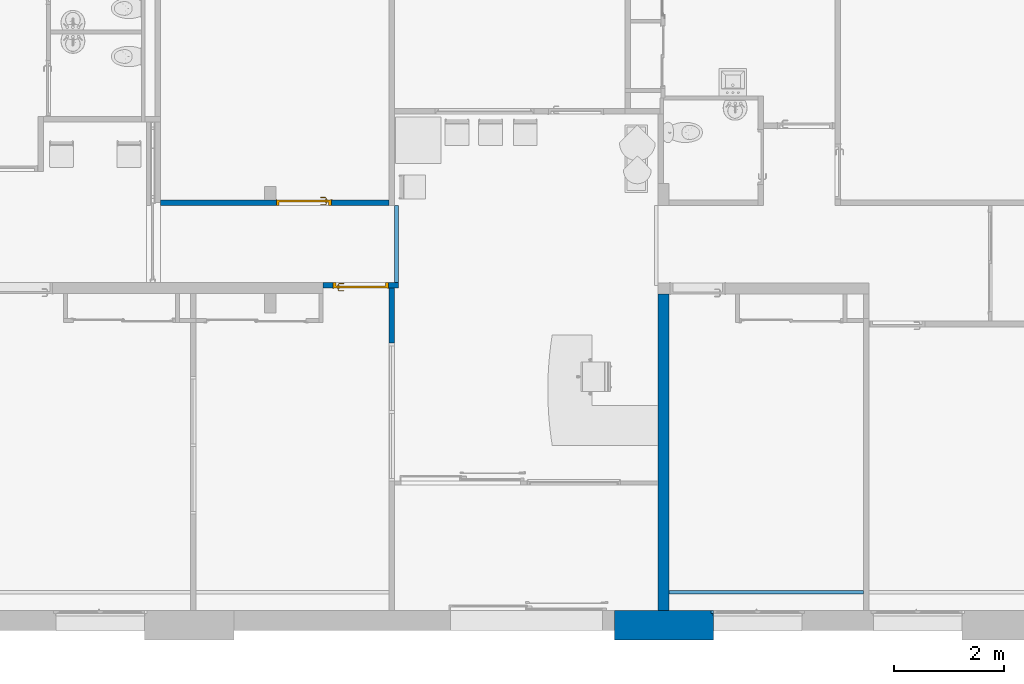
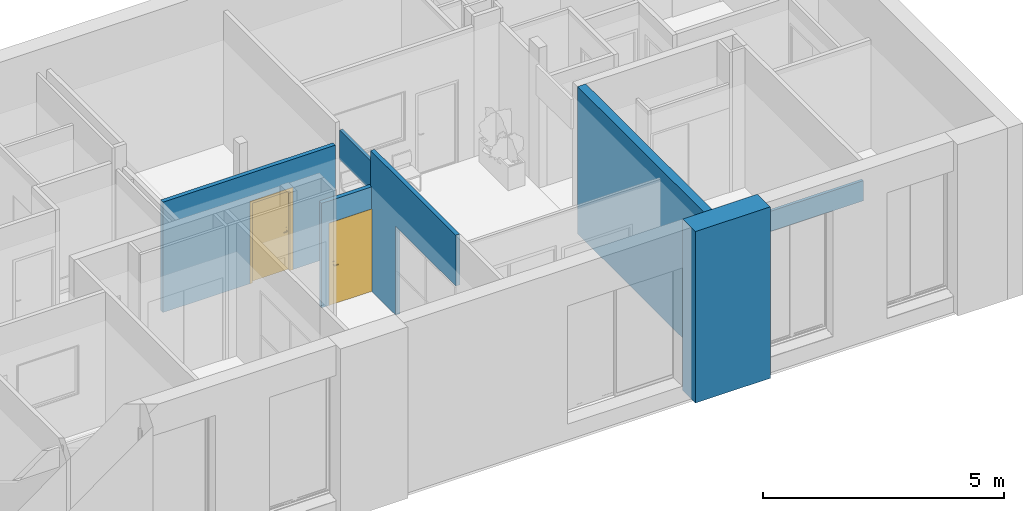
# One storey, part 12 of 32: 7 walls, 2 doors, 4 openings.
"""IFC2X3 building model written with IfcOpenShell, lengths in metres."""

from ifc_helpers import new_model, entity, si_unit, converted_unit, derived_unit, direction, frame, frame_2d, origin, place, context, subcontext, project, spatial, polyline, circle_curve, parameter, trimmed, segment, composite_curve, rectangle, outline, extrude, faceted_brep, source, transform, mapped, material, material_list, layer, layer_set, layer_usage, type_object, type_shapes, element, fill, save


model = new_model("IFC2X3")

# Units and contexts
model_context = context("Model", 3, precision=1e-05, world=origin(), true_north=direction((6.12303176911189e-17, 1.0)))
plan_context = context("Plan", 3, precision=1e-05, world=origin(), true_north=direction((6.12303176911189e-17, 1.0)))
body_context = subcontext(model_context, "Body", "Model", "MODEL_VIEW")
ifc_project = project(units=[si_unit("LENGTHUNIT", "METRE"), si_unit("AREAUNIT", "SQUARE_METRE"), si_unit("VOLUMEUNIT", "CUBIC_METRE"), converted_unit("PLANEANGLEUNIT", "DEGREE", entity("IfcRatioMeasure", 0.0174532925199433), si_unit("PLANEANGLEUNIT", "RADIAN"), dimensions=[0, 0, 0, 0, 0, 0, 0]), si_unit("MASSUNIT", "GRAM", prefix="KILO"), derived_unit("MASSDENSITYUNIT", [(si_unit("MASSUNIT", "GRAM", prefix="KILO"), 1), (si_unit("LENGTHUNIT", "METRE"), -3)]), derived_unit("MOMENTOFINERTIAUNIT", [(si_unit("LENGTHUNIT", "METRE"), 4)]), si_unit("TIMEUNIT", "SECOND"), si_unit("FREQUENCYUNIT", "HERTZ"), si_unit("THERMODYNAMICTEMPERATUREUNIT", "DEGREE_CELSIUS"), derived_unit("THERMALTRANSMITTANCEUNIT", [(si_unit("MASSUNIT", "GRAM", prefix="KILO"), 1), (si_unit("THERMODYNAMICTEMPERATUREUNIT", "KELVIN"), -1), (si_unit("TIMEUNIT", "SECOND"), -3)]), derived_unit("VOLUMETRICFLOWRATEUNIT", [(si_unit("LENGTHUNIT", "METRE"), 3), (si_unit("TIMEUNIT", "SECOND"), -1)]), si_unit("ELECTRICCURRENTUNIT", "AMPERE"), si_unit("ELECTRICVOLTAGEUNIT", "VOLT"), si_unit("POWERUNIT", "WATT"), si_unit("FORCEUNIT", "NEWTON", prefix="KILO"), si_unit("ILLUMINANCEUNIT", "LUX"), si_unit("LUMINOUSFLUXUNIT", "LUMEN"), si_unit("LUMINOUSINTENSITYUNIT", "CANDELA"), derived_unit("USERDEFINED", [(si_unit("MASSUNIT", "GRAM", prefix="KILO"), -1), (si_unit("LENGTHUNIT", "METRE"), -2), (si_unit("TIMEUNIT", "SECOND"), 3), (si_unit("LUMINOUSFLUXUNIT", "LUMEN"), 1)]), derived_unit("LINEARVELOCITYUNIT", [(si_unit("LENGTHUNIT", "METRE"), 1), (si_unit("TIMEUNIT", "SECOND"), -1)]), si_unit("PRESSUREUNIT", "PASCAL"), derived_unit("USERDEFINED", [(si_unit("LENGTHUNIT", "METRE"), -2), (si_unit("MASSUNIT", "GRAM", prefix="KILO"), 1), (si_unit("TIMEUNIT", "SECOND"), -2)]), derived_unit("LINEARFORCEUNIT", [(si_unit("MASSUNIT", "GRAM", prefix="KILO"), 1), (si_unit("LENGTHUNIT", "METRE"), 1), (si_unit("TIMEUNIT", "SECOND"), -2), (si_unit("LENGTHUNIT", "METRE"), -1)]), derived_unit("PLANARFORCEUNIT", [(si_unit("MASSUNIT", "GRAM", prefix="KILO"), 1), (si_unit("LENGTHUNIT", "METRE"), 1), (si_unit("TIMEUNIT", "SECOND"), -2), (si_unit("LENGTHUNIT", "METRE"), -2)])], contexts=[model_context, plan_context])

# Site, building, storey
site_placement = place(None, origin())
site = spatial("IfcSite", under=ifc_project, at=site_placement, Name="Default", CompositionType="ELEMENT")
building_placement = place(site_placement, origin())
building = spatial("IfcBuilding", under=site, at=building_placement, CompositionType="ELEMENT")
storey_placement = place(building_placement, origin())
storey = spatial("IfcBuildingStorey", under=building, at=storey_placement, Name="0 Mairie RDC 0.00", CompositionType="ELEMENT", Elevation=-1.94916083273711e-14)

# Wall, opening, door
ifc_material_1 = material(Name="Plâtre")
ifc_layer_1 = layer(ifc_material_1, 0.0125)
ifc_layer_2 = layer(ifc_material_1, 0.0125)
ifc_material_2 = material(Name="Maçonnerie - Isolant")
ifc_layer_3 = layer(ifc_material_2, 0.05)
ifc_layer_4 = layer(ifc_material_1, 0.0125)
ifc_layer_5 = layer(ifc_material_1, 0.0125)
ifc_layer_set_1 = layer_set([ifc_layer_1, ifc_layer_2, ifc_layer_3, ifc_layer_4, ifc_layer_5], Name="Mur de base:A cloison placostil 98 sèche")
ifc_layer_usage_1 = layer_usage(ifc_layer_set_1, "AXIS2", "POSITIVE", -0.05)
wall_type_1 = type_object("IfcWallType", Name="Murs : Mur de base : A cloison placostil 98 sèche", PredefinedType="STANDARD", material=ifc_layer_set_1)
wall_1_placement = place(storey_placement, frame((-14.0467760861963, -6.58253403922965, 0.0)))
wall_1 = element("IfcWallStandardCase", 1, at=wall_1_placement, inside=storey, type_object=wall_type_1, material=ifc_layer_usage_1, Name="Murs : Mur de base : A cloison placostil 98 sèche", ObjectType="Mur de base:A cloison placostil 98 sèche", context=body_context, shape_type="SweptSolid", body=[
    extrude(rectangle(XDim=4.13832893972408, YDim=0.1, at=frame_2d((2.16916446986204, -5.41233724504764e-16), x_axis=(1.0, 0.0))), origin(), (0.0, 0.0, 1.0), 2.8),
])
opening_1_placement = place(wall_1_placement, frame((2.19822991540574, -0.0500000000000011, 0.0)))
opening_1 = element("IfcOpeningElement", 2, at=opening_1_placement, cuts=wall_1, Name="Portes : Int. Simple : PP (0.89m x 2.04m):1", ObjectType="Opening", context=body_context, shape_type="SweptSolid", body=[
    extrude(rectangle(XDim=2.075, YDim=0.999999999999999, at=frame_2d((1.0375, 0.5), x_axis=(1.0, 0.0))), frame((0.0, 0.0, 0.0), z_axis=(0.0, 1.0, 0.0), x_axis=(0.0, 0.0, 1.0)), (0.0, 0.0, 1.0), 0.1),
])
ifc_material_3 = material(Name="Finition Peinture - Blanc satiné")
ifc_material_4 = material(Name="Bois - Cadre de porte")
ifc_material_list_1 = material_list([ifc_material_3, ifc_material_4])
ifc_material_5 = material(Name="Bois - Panneau de porte")
ifc_material_list_2 = material_list([ifc_material_5, ifc_material_4, ifc_material_3])
door_style = type_object("IfcDoorStyle", Name="Portes : Int. Simple : PP (0.89m x 2.04m)", ConstructionType="NOTDEFINED", OperationType="NOTDEFINED", ParameterTakesPrecedence=False, Sizeable=False, material=ifc_material_list_2)
shared_shape = source(origin(), body_context, "Body", "SolidModel", [
    extrude(outline(composite_curve([segment(polyline([(-0.104999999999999, -0.0199999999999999), (0.104999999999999, -0.0199999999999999)]), True, "CONTINUOUS"), segment(trimmed(circle_curve(frame_2d((0.0703589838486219, 0.0), x_axis=(0.0, 1.0)), 0.0399999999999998), [parameter(240.000000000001)], [parameter(300.0)], True, "PARAMETER"), True, "CONTINUOUS"), segment(polyline([(0.104999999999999, 0.0199999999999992), (-0.105, 0.020000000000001)]), True, "CONTINUOUS"), segment(trimmed(circle_curve(frame_2d((-0.0703589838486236, 0.0), x_axis=(0.0, 1.0)), 0.0399999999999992), [parameter(59.9999999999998)], [parameter(120.0)], True, "PARAMETER"), True, "CONTINUOUS")], self_intersect=False)), frame((0.0949999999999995, -0.00500000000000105, 0.975000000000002), z_axis=(0.0, 1.0, 0.0), x_axis=(0.0, 0.0, 1.0)), (0.0, 0.0, 1.0), 0.005),
    extrude(outline(composite_curve([segment(polyline([(-0.105, -0.0200000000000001), (0.105, -0.0200000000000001)]), True, "CONTINUOUS"), segment(trimmed(circle_curve(frame_2d((0.0703589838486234, 0.0), x_axis=(0.0, -1.0)), 0.0399999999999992), [parameter(59.9999999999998)], [parameter(120.0)], True, "PARAMETER"), True, "CONTINUOUS"), segment(polyline([(0.104999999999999, 0.0200000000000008), (-0.105, 0.0199999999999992)]), True, "CONTINUOUS"), segment(trimmed(circle_curve(frame_2d((-0.0703589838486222, 0.0), x_axis=(0.0, -1.0)), 0.0399999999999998), [parameter(240.0)], [parameter(300.0)], True, "PARAMETER"), True, "CONTINUOUS")], self_intersect=False)), frame((0.0949999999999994, 0.0399999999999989, 0.975000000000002), z_axis=(0.0, 1.0, 0.0), x_axis=(0.0, 0.0, -1.0)), (0.0, 0.0, 1.0), 0.00500000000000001),
    extrude(rectangle(XDim=0.04, YDim=0.93, at=frame_2d((3.46944695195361e-18, 0.0), x_axis=(1.0, 0.0))), frame((0.5, 0.02, 0.0), z_axis=(0.0, 0.0, 1.0), x_axis=(0.0, -1.0, 0.0)), (0.0, 0.0, 1.0), 2.04),
    extrude(outline(polyline([(-1.03750000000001, -0.514999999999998), (1.0525, -0.514999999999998), (1.0525, 0.514999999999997), (-1.0375, 0.514999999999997), (-1.03750000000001, 0.484999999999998), (1.02250000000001, 0.484999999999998), (1.02250000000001, -0.484999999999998), (-1.03750000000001, -0.484999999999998), (-1.03750000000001, -0.514999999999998)])), frame((0.499999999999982, 0.100000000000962, 1.03750000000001), z_axis=(0.0, 1.0, 0.0), x_axis=(0.0, 0.0, 1.0)), (0.0, 0.0, 1.0), 0.00500000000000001),
    extrude(outline(polyline([(-1.03750000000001, -0.514999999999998), (1.0525, -0.514999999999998), (1.0525, 0.514999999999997), (-1.0375, 0.514999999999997), (-1.03750000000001, 0.484999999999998), (1.02250000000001, 0.484999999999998), (1.02250000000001, -0.484999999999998), (-1.03750000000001, -0.484999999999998), (-1.03750000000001, -0.514999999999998)])), frame((0.499999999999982, -0.00500000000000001, 1.03750000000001), z_axis=(0.0, 1.0, 0.0), x_axis=(0.0, 0.0, 1.0)), (0.0, 0.0, 1.0), 0.005),
    faceted_brep([(0.0929747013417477, -0.00500000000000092, 1.00778044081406), (0.097025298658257, -0.0050000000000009, 1.00778044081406), (0.101000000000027, -0.00500000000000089, 1.00699999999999), (0.101000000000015, -0.00500000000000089, 0.993000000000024), (0.0970252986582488, -0.0050000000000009, 0.992219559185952), (0.0929747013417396, -0.00500000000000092, 0.99221955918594), (0.0889999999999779, -0.00500000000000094, 0.992999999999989), (0.0889999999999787, -0.00500000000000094, 1.007), (0.0889999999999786, -0.0326509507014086, 1.007), (0.0929747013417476, -0.0310045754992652, 1.00778044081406), (0.109023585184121, -0.0470534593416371, 1.00778044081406), (0.110701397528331, -0.0430028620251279, 1.00778044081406), (0.0970252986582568, -0.0293267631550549, 1.00778044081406), (0.101000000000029, -0.0276803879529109, 1.007), (0.101000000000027, -0.0276803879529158, 0.993000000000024), (0.0970252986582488, -0.0293267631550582, 0.992219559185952), (0.110701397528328, -0.0430028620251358, 0.992219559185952), (0.109023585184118, -0.0470534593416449, 0.99221955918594), (0.0929747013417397, -0.0310045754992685, 0.99221955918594), (0.0889999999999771, -0.0326509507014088, 0.992999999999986), (0.107377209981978, -0.0510281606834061, 1.007), (0.112347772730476, -0.0390281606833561, 1.007), (0.112347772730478, -0.0390281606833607, 0.993000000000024), (0.107377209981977, -0.0510281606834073, 0.992999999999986), (0.195018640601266, -0.051028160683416, 0.992999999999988), (0.195018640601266, -0.0470534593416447, 0.99221955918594), (0.195018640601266, -0.0430028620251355, 0.992219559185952), (0.195018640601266, -0.0390281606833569, 0.993000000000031), (0.195018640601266, -0.0390281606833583, 1.007), (0.195018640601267, -0.0430028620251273, 1.00778044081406), (0.195018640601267, -0.0470534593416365, 1.00778044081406), (0.195018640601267, -0.0510281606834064, 1.00699999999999), (0.147307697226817, -0.0510281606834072, 1.007), (0.152860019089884, -0.045028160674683, 1.0078786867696), (0.15368320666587, -0.039028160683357, 1.007), (0.153683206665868, -0.0390281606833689, 0.993000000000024), (0.152860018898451, -0.0450281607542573, 0.992121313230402), (0.147307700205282, -0.0510281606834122, 0.992999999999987)], [[[0, 1, 2, 3, 4, 5, 6, 7]], [[8, 9, 0, 7]], [[9, 10, 11, 12, 1, 0]], [[12, 13, 2, 1]], [[3, 2, 13, 14]], [[14, 15, 4, 3]], [[15, 16, 17, 18, 5, 4]], [[18, 19, 6, 5]], [[7, 6, 19, 8]], [[20, 10, 9, 8]], [[11, 21, 13, 12]], [[14, 13, 21, 22]], [[22, 16, 15, 14]], [[17, 23, 19, 18]], [[8, 19, 23, 20]], [[24, 25, 26, 27, 28, 29, 30, 31]], [[32, 30, 33]], [[31, 30, 32]], [[10, 20, 32]], [[33, 34, 11]], [[21, 11, 34]], [[34, 29, 28]], [[30, 29, 33]], [[29, 34, 33]], [[10, 32, 33]], [[10, 33, 11]], [[22, 21, 34, 28, 27, 35]], [[35, 26, 36]], [[37, 36, 25]], [[22, 35, 16]], [[35, 27, 26]], [[24, 37, 25]], [[23, 17, 37]], [[37, 17, 36]], [[17, 16, 36]], [[16, 35, 36]], [[25, 36, 26]], [[20, 23, 37, 24, 31, 32]]]),
    faceted_brep([(0.092974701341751, 0.0449999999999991, 1.00778044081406), (0.0889999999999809, 0.044999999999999, 1.007), (0.0889999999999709, 0.044999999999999, 0.992999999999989), (0.0929747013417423, 0.0449999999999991, 0.99221955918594), (0.0970252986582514, 0.0449999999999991, 0.992219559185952), (0.10100000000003, 0.0449999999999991, 0.993000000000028), (0.101000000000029, 0.0449999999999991, 1.007), (0.0970252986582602, 0.0449999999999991, 1.00778044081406), (0.10100000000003, 0.067485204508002, 0.993000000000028), (0.10100000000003, 0.0674852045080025, 1.007), (0.0970252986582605, 0.0691315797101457, 1.00778044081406), (0.110838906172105, 0.0829451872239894, 1.00778044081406), (0.109161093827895, 0.0869957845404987, 1.00778044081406), (0.0929747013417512, 0.070809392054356, 1.00778044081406), (0.088999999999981, 0.0724557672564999, 1.007), (0.0889999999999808, 0.072455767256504, 0.992999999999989), (0.092974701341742, 0.0708093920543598, 0.99221955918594), (0.109161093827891, 0.0869957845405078, 0.99221955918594), (0.110838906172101, 0.0829451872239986, 0.992219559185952), (0.0970252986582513, 0.0691315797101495, 0.992219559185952), (0.112485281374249, 0.0789704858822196, 0.993000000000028), (0.112485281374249, 0.0789704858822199, 1.007), (0.107514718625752, 0.0909704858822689, 1.007), (0.107514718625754, 0.090970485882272, 0.992999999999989), (0.195045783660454, 0.0789704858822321, 0.993000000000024), (0.195045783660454, 0.0829451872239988, 0.992219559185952), (0.195045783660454, 0.086995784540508, 0.99221955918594), (0.195045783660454, 0.0909704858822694, 0.992999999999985), (0.195045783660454, 0.0909704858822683, 1.007), (0.195045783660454, 0.0869957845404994, 1.00778044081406), (0.195045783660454, 0.0829451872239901, 1.00778044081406), (0.195045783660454, 0.0789704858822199, 1.007), (0.153765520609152, 0.0789704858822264, 0.993000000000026), (0.153765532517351, 0.0789704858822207, 1.007), (0.152942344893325, 0.0849704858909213, 1.0078786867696), (0.147445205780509, 0.0909704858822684, 1.007), (0.147445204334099, 0.0909704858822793, 0.992999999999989), (0.152942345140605, 0.0849704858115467, 0.992121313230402)], [[[0, 1, 2, 3, 4, 5, 6, 7]], [[6, 5, 8, 9]], [[9, 10, 7, 6]], [[10, 11, 12, 13, 0, 7]], [[13, 14, 1, 0]], [[2, 1, 14, 15]], [[15, 16, 3, 2]], [[16, 17, 18, 19, 4, 3]], [[19, 8, 5, 4]], [[9, 8, 20, 21]], [[21, 11, 10, 9]], [[12, 22, 14, 13]], [[15, 14, 22, 23]], [[23, 17, 16, 15]], [[18, 20, 8, 19]], [[24, 25, 26, 27, 28, 29, 30, 31]], [[21, 20, 32, 24, 31, 33]], [[33, 30, 34]], [[35, 34, 29]], [[21, 33, 11]], [[33, 31, 30]], [[28, 35, 29]], [[22, 12, 35]], [[35, 12, 34]], [[12, 11, 34]], [[11, 33, 34]], [[29, 34, 30]], [[22, 35, 28, 27, 36, 23]], [[36, 26, 37]], [[27, 26, 36]], [[17, 23, 36]], [[37, 32, 18]], [[20, 18, 32]], [[32, 25, 24]], [[26, 25, 37]], [[25, 32, 37]], [[17, 36, 37]], [[17, 37, 18]]]),
    faceted_brep([(0.0, 0.0, 0.0), (0.0, 0.100000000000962, 0.0), (0.0499999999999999, 0.100000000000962, 0.0), (0.0499999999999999, 0.040000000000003, 0.0), (0.0349999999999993, 0.040000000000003, 0.0), (0.0349999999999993, 0.0, 0.0), (0.0, 0.0, 2.07500000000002), (0.0, 0.100000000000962, 2.07500000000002), (1.0, 0.100000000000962, 2.07500000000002), (1.0, 0.100000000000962, 0.0), (0.95, 0.100000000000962, 0.0), (0.95, 0.100000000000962, 2.025), (0.05, 0.100000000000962, 2.025), (0.05, 0.040000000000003, 2.025), (0.95, 0.040000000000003, 2.025), (0.95, 0.040000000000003, 0.0), (0.965, 0.040000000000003, 0.0), (0.965, 0.040000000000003, 2.04), (0.0349999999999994, 0.040000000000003, 2.04), (0.0349999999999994, 0.0, 2.04), (0.965, 0.0, 2.04), (0.965, 0.0, 0.0), (1.0, 0.0, 0.0), (1.0, 0.0, 2.07500000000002)], [[[0, 1, 2, 3, 4, 5]], [[1, 0, 6, 7]], [[2, 1, 7, 8, 9, 10, 11, 12]], [[3, 2, 12, 13]], [[4, 3, 13, 14, 15, 16, 17, 18]], [[5, 4, 18, 19]], [[0, 5, 19, 20, 21, 22, 23, 6]], [[8, 23, 22, 9]], [[22, 21, 16, 15, 10, 9]], [[14, 11, 10, 15]], [[20, 17, 16, 21]], [[7, 6, 23, 8]], [[13, 12, 11, 14]], [[19, 18, 17, 20]]]),
])
type_shapes(door_style, [shared_shape])
door_1_placement = place(opening_1_placement, frame((1.0, 0.0999999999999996, 0.0), z_axis=(0.0, 0.0, 1.0), x_axis=(-1.0, 0.0, 0.0)))
door_1 = element("IfcDoor", 3, at=door_1_placement, inside=storey, type_object=door_style, material=ifc_material_list_1, Name="Portes : Int. Simple : PP (0.89m x 2.04m)", ObjectType="Int. Simple:PP (0.89m x 2.04m)", OverallHeight=2.075, OverallWidth=1.0, context=body_context, shape_type="MappedRepresentation", body=[
    mapped(shared_shape, transform((0.0, 0.0, 0.0), scale=1.0)),
])
fill(opening_1, door_1)

ifc_layer_usage_2 = layer_usage(ifc_layer_set_1, "AXIS2", "POSITIVE", -0.05)
wall_2_placement = place(storey_placement, frame((-11.0031086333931, -8.08278670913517, 0.0)))
wall_2 = element("IfcWallStandardCase", 4, at=wall_2_placement, inside=storey, type_object=wall_type_1, material=ifc_layer_usage_2, Name="Murs : Mur de base : A cloison placostil 98 sèche", ObjectType="Mur de base:A cloison placostil 98 sèche", context=body_context, shape_type="SweptSolid", body=[
    extrude(rectangle(XDim=1.36466148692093, YDim=0.0999999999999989, at=frame_2d((0.682330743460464, 0.0), x_axis=(-1.0, 0.0))), origin(), (0.0, 0.0, 1.0), 2.65),
])
opening_2_placement = place(wall_2_placement, frame((1.18346309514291, 0.05, 0.0)))
opening_2 = element("IfcOpeningElement", 5, at=opening_2_placement, cuts=wall_2, Name="Portes : Int. Simple : PP (0.89m x 2.04m):1", ObjectType="Opening", context=body_context, shape_type="SweptSolid", body=[
    extrude(rectangle(XDim=2.075, YDim=1.0, at=frame_2d((1.0375, 0.5), x_axis=(1.0, 0.0))), frame((0.0, 0.0, 0.0), z_axis=(0.0, -1.0, 0.0), x_axis=(0.0, 0.0, 1.0)), (0.0, 0.0, 1.0), 0.1),
])
ifc_material_list_3 = material_list([ifc_material_3, ifc_material_4])
door_2_placement = place(opening_2_placement, frame((-1.0, -0.0999999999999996, 0.0)))
door_2 = element("IfcDoor", 6, at=door_2_placement, inside=storey, type_object=door_style, material=ifc_material_list_3, Name="Portes : Int. Simple : PP (0.89m x 2.04m)", ObjectType="Int. Simple:PP (0.89m x 2.04m)", OverallHeight=2.075, OverallWidth=1.0, context=body_context, shape_type="MappedRepresentation", body=[
    mapped(shared_shape, transform((0.0, 0.0, 0.0), scale=1.0)),
])
fill(opening_2, door_2)

# Wall, opening
ifc_layer_usage_3 = layer_usage(ifc_layer_set_1, "AXIS2", "NEGATIVE", 0.05)
wall_3_placement = place(storey_placement, frame((-9.75464553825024, -11.6285833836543, 0.0), z_axis=(0.0, 0.0, 1.0), x_axis=(0.0, 1.0, 0.0)))
wall_3 = element("IfcWallStandardCase", 7, at=wall_3_placement, inside=storey, type_object=wall_type_1, material=ifc_layer_usage_3, Name="Murs : Mur de base : A cloison placostil 98 sèche", ObjectType="Mur de base:A cloison placostil 98 sèche", context=body_context, shape_type="SweptSolid", body=[
    extrude(rectangle(XDim=3.5457966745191, YDim=0.0999999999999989, at=frame_2d((1.77289833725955, 0.0), x_axis=(-1.0, 0.0))), origin(), (0.0, 0.0, 1.0), 3.54),
])
opening_3_placement = place(wall_3_placement, origin())
element("IfcOpeningElement", 8, at=opening_3_placement, cuts=wall_3, Name="Mur de base:A cloison placostil 98 sèche", ObjectType="Opening", context=body_context, shape_type="SweptSolid", body=[
    extrude(rectangle(XDim=2.25, YDim=2.5, at=frame_2d((1.99840144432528e-15, -1.11022302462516e-15), x_axis=(1.0, 0.0))), frame((1.25, 0.0499999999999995, 1.125), z_axis=(0.0, -1.0, 0.0), x_axis=(0.0, 0.0, -1.0)), (0.0, 0.0, 1.0), 0.1),
])

# Walls
ifc_layer_6 = layer(ifc_material_1, 0.01)
ifc_layer_7 = layer(ifc_material_2, 0.05)
ifc_layer_8 = layer(ifc_material_1, 0.01)
ifc_layer_set_2 = layer_set([ifc_layer_6, ifc_layer_7, ifc_layer_8], Name="Mur de base:A cloison placostil 72 sèche")
ifc_layer_usage_4 = layer_usage(ifc_layer_set_2, "AXIS2", "POSITIVE", -0.035)
wall_type_2 = type_object("IfcWallType", Name="Murs : Mur de base : A cloison placostil 72 sèche", PredefinedType="STANDARD", material=ifc_layer_set_2)
wall_4_placement = place(storey_placement, frame((-9.67344714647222, -8.08278670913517, 2.4), z_axis=(0.0, 0.0, 1.0), x_axis=(0.0, 1.0, 0.0)))
element("IfcWallStandardCase", 9, at=wall_4_placement, inside=storey, type_object=wall_type_2, material=ifc_layer_usage_4, Name="Murs : Mur de base : A cloison placostil 72 sèche", ObjectType="Mur de base:A cloison placostil 72 sèche", context=body_context, shape_type="SweptSolid", body=[
    extrude(rectangle(XDim=1.39951816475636, YDim=0.0700000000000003, at=frame_2d((0.749759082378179, -5.41233724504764e-16), x_axis=(-1.0, 0.0))), origin(), (0.0, 0.0, 1.0), 0.75),
])
ifc_layer_usage_5 = layer_usage(ifc_layer_set_2, "AXIS2", "POSITIVE", -0.035)
wall_5_placement = place(storey_placement, frame((-4.72682796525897, -13.6435662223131, 2.65)))
element("IfcWallStandardCase", 10, at=wall_5_placement, inside=storey, type_object=wall_type_2, material=ifc_layer_usage_5, Name="Murs : Mur de base : A cloison placostil 72 sèche", ObjectType="Mur de base:A cloison placostil 72 sèche", context=body_context, shape_type="SweptSolid", body=[
    extrude(rectangle(XDim=3.52043574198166, YDim=0.0700000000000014, at=frame_2d((1.76021787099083, 6.24500451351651e-17), x_axis=(-1.0, 0.0))), origin(), (0.0, 0.0, 1.0), 0.510000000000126),
])
ifc_material_6 = material(Name="Béton, coulé sur place")
ifc_layer_9 = layer(ifc_material_6, 0.2)
ifc_layer_set_3 = layer_set([ifc_layer_9], Name="Mur de base:A Ext. Voile BA 20")
ifc_layer_usage_6 = layer_usage(ifc_layer_set_3, "AXIS2", "NEGATIVE", 0.1)
wall_type_3 = type_object("IfcWallType", Name="Murs : Mur de base : A Ext. Voile BA 20", PredefinedType="STANDARD", material=ifc_layer_set_3)
wall_6_placement = place(storey_placement, frame((-4.8274967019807, -8.23826854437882, -0.18), z_axis=(0.0, 0.0, 1.0), x_axis=(0.0, -1.0, 0.0)))
element("IfcWallStandardCase", 11, at=wall_6_placement, inside=storey, type_object=wall_type_3, material=ifc_layer_usage_6, Name="Murs : Mur de base : A Ext. Voile BA 20", ObjectType="Mur de base:A Ext. Voile BA 20", context=body_context, shape_type="SweptSolid", body=[
    extrude(rectangle(XDim=5.74029767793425, YDim=0.2, at=frame_2d((2.87014883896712, -3.19189119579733e-16), x_axis=(-1.0, 0.0))), origin(), (0.0, 0.0, 1.0), 3.73),
])

# Wall, opening
ifc_material_7 = material(Name="Moellons")
ifc_layer_10 = layer(ifc_material_7, 0.19)
ifc_layer_11 = layer(ifc_material_6, 0.2)
ifc_material_8 = material(Name="Vide")
ifc_layer_12 = layer(ifc_material_8, 0.01)
ifc_layer_13 = layer(ifc_material_2, 0.12)
ifc_layer_14 = layer(ifc_material_1, 0.01)
ifc_layer_set_4 = layer_set([ifc_layer_10, ifc_layer_11, ifc_layer_12, ifc_layer_13, ifc_layer_14], Name="Mur de base:A Parement pierre 19 + Béton 20 + vide 1 +   Doublage 14")
ifc_layer_usage_7 = layer_usage(ifc_layer_set_4, "AXIS2", "POSITIVE", -0.265)
wall_type_4 = type_object("IfcWallType", Name="Murs : Mur de base : A Parement pierre 19 + Béton 20 + vide 1 +   Doublage 14", PredefinedType="STANDARD", material=ifc_layer_set_4)
wall_7_placement = place(storey_placement, frame((-5.71846062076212, -14.2435662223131, -0.400000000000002)))
wall_7 = element("IfcWallStandardCase", 12, at=wall_7_placement, inside=storey, type_object=wall_type_4, material=ifc_layer_usage_7, Name="Murs : Mur de base : A Parement pierre 19 + Béton 20 + vide 1 +   Doublage 14", ObjectType="Mur de base:A Parement pierre 19 + Béton 20 + vide 1 +   Doublage 14", context=body_context, shape_type="SweptSolid", body=[
    extrude(rectangle(XDim=1.798298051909, YDim=0.530000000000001, at=frame_2d((0.899149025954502, -8.32667268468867e-17), x_axis=(-1.0, 0.0))), origin(), (0.0, 0.0, 1.0), 4.35000000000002),
])
opening_4_placement = place(wall_7_placement, frame((1.74829805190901, -0.414999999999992, 0.400000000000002)))
element("IfcOpeningElement", 13, at=opening_4_placement, cuts=wall_7, Name="Murs : Mur de base : A Parement pierre 19 + Béton 20 + vide 1 +   Doublage 14", ObjectType="Opening", context=body_context, shape_type="Brep", body=[
    faceted_brep([(1.65, 0.599999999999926, 0.0350000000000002), (1.65, 0.580000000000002, 0.0350000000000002), (1.65, 0.580000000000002, 3.185), (1.65, 0.0, 3.185), (1.65, 0.0, 0.0), (1.65, 0.266997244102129, 0.0), (0.0499999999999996, 1.0, 0.0350000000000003), (0.0499999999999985, 0.680000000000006, 0.0350000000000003), (0.0499999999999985, 0.680000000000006, 3.185), (0.0499999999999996, 1.0, 3.185), (1.65, 1.0, 0.0350000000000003), (1.65, 0.680000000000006, 0.0350000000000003), (1.7, 0.680000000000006, 0.0350000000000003), (1.7, 0.630000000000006, 0.0350000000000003), (1.66, 0.630000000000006, 0.0350000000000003), (1.66, 0.580000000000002, 0.0350000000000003), (0.0499999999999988, 0.599999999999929, 0.0349999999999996), (0.0499999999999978, 0.580000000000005, 0.0350000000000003), (0.0399999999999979, 0.580000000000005, 0.0350000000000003), (0.0399999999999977, 0.630000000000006, 0.0350000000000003), (0.0, 0.630000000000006, 0.0350000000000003), (0.0, 0.680000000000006, 0.0350000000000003), (1.65, 1.0, 3.185), (0.0499999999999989, 0.580000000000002, 3.185), (0.0499999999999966, 0.0, 3.185), (0.0499999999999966, 0.0, 0.0), (0.0499999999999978, 0.266997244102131, 0.0), (1.7, 0.680000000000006, 3.235), (1.7, 0.630000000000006, 3.235), (0.0, 0.630000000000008, 3.235), (0.0399999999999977, 0.630000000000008, 3.195), (1.66, 0.630000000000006, 3.195), (1.66, 0.580000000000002, 3.195), (0.0399999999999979, 0.580000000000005, 3.195), (1.65, 0.680000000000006, 3.185), (0.0, 0.680000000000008, 3.235)], [[[0, 1, 2, 3, 4, 5]], [[6, 7, 8, 9]], [[10, 11, 12, 13, 14, 15, 1, 0, 16, 17, 18, 19, 20, 21, 7, 6]], [[10, 6, 9, 22]], [[3, 2, 23, 24]], [[3, 24, 25, 4]], [[4, 25, 26, 5]], [[5, 26, 16, 0]], [[12, 27, 28, 13]], [[13, 28, 29, 20, 19, 30, 31, 14]], [[14, 31, 32, 15]], [[15, 32, 33, 18, 17, 23, 2, 1]], [[11, 34, 8, 7, 21, 35, 27, 12]], [[27, 35, 29, 28]], [[30, 33, 32, 31]], [[29, 35, 21, 20]], [[19, 18, 33, 30]], [[9, 8, 34, 22]], [[24, 23, 17, 16, 26, 25]], [[22, 34, 11, 10]]]),
])

save(model, "model.ifc")
